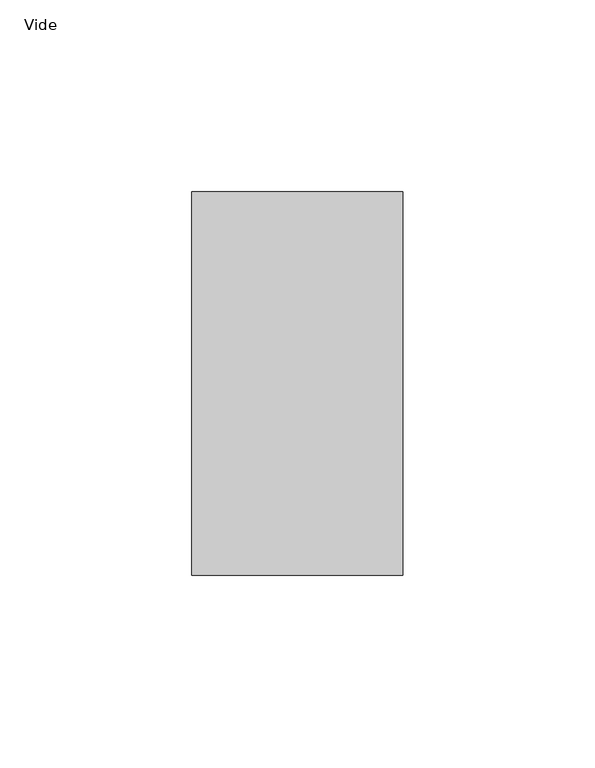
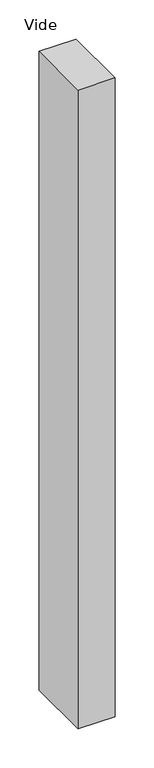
"""IFC4 building model written with IfcOpenShell, lengths in millimetres: plate geometry, Panneau système vide : Vide."""

from ifc_helpers import new_model, si_unit, origin, origin_with_axes, place, context, project, spatial, polyline, outline, extrude, source, transform, mapped, element, save


def vide_94d37051(model_context):
    return source(origin(), model_context, "Body", "SweptSolid", [
        extrude(outline(polyline([(27.5, 50.0), (-27.5, 50.0), (-27.5, 150.0), (27.5, 150.0), (27.5, 50.0)])), origin_with_axes(), (0.0, 0.0, 1.0), 1000.0),
    ])


if __name__ == "__main__":
    model = new_model("IFC4")
    model_context = context("Model", 3, world=origin())
    ifc_project = project(units=[si_unit("LENGTHUNIT", "METRE", prefix="MILLI")], contexts=[model_context])
    site = spatial("IfcSite", under=ifc_project)
    building = spatial("IfcBuilding", under=site)
    placement = place(None, origin())
    vide_shape = vide_94d37051(model_context)
    element("IfcPlate", 1, ObjectType="Panneau système vide : Vide", at=placement, inside=building, context=model_context, shape_type="MappedRepresentation", body=[
        mapped(vide_shape, transform((0.0, 0.0, 0.0), x_axis=(1.0, 0.0, 0.0), y_axis=(0.0, 1.0, 0.0), z_axis=(0.0, 0.0, 1.0))),
    ])
    save(model, "model.ifc")
